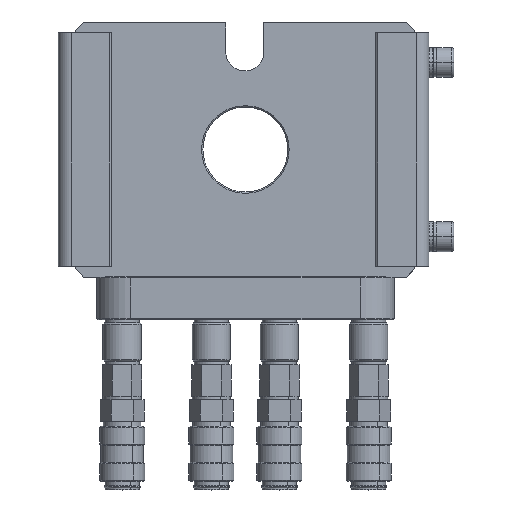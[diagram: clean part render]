
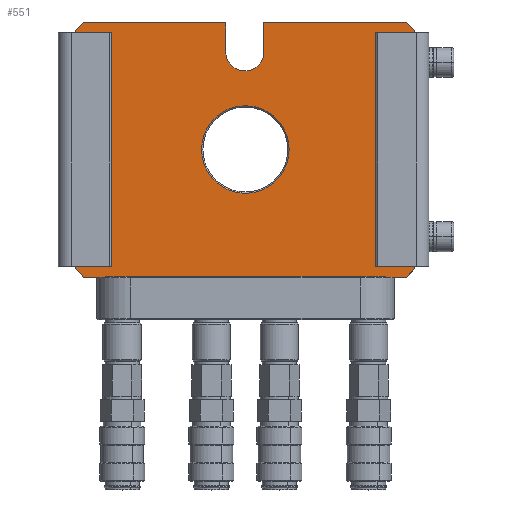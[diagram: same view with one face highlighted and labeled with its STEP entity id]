
A CAD part, top view. The second image highlights one B-rep face of the part: STEP entity #551.
In plain terms, the highlighted planar face has unit normal (0, 0, 1).
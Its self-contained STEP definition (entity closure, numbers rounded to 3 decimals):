
#551 = ADVANCED_FACE ( 'NONE', ( #47416, #33720 ), #48893, .F. ) ;
#2546 = VECTOR ( 'NONE', #88256, 1000. ) ;
#5562 = CARTESIAN_POINT ( 'NONE',  ( 4.5, 29.8, -58. ) ) ;
#6164 = EDGE_CURVE ( 'NONE', #15114, #55414, #90745, .T. ) ;
#6766 = ORIENTED_EDGE ( 'NONE', *, *, #46409, .F. ) ;
#7442 = DIRECTION ( 'NONE',  ( -1., 0., 0. ) ) ;
#9078 = EDGE_CURVE ( 'NONE', #28310, #47513, #83032, .T. ) ;
#9853 = EDGE_LOOP ( 'NONE', ( #54880, #81036, #22105, #88994, #31207, #30141, #10059, #29065, #6766, #51910, #52121, #95723, #37451, #90715 ) ) ;
#10059 = ORIENTED_EDGE ( 'NONE', *, *, #43722, .F. ) ;
#10756 = VECTOR ( 'NONE', #60471, 1000. ) ;
#10831 = VERTEX_POINT ( 'NONE', #66540 ) ;
#10999 = CARTESIAN_POINT ( 'NONE',  ( 38.125, 30., -58. ) ) ;
#12163 = CIRCLE ( 'NONE', #68503, 4.5 ) ;
#12860 = CIRCLE ( 'NONE', #17657, 10.3 ) ;
#13955 = DIRECTION ( 'NONE',  ( -0.707, 0.707, 0. ) ) ;
#14263 = CARTESIAN_POINT ( 'NONE',  ( -9.875, 30., -58. ) ) ;
#15114 = VERTEX_POINT ( 'NONE', #77993 ) ;
#15138 = VERTEX_POINT ( 'NONE', #24591 ) ;
#17657 = AXIS2_PLACEMENT_3D ( 'NONE', #29764, #84599, #7442 ) ;
#17868 = DIRECTION ( 'NONE',  ( -1., 0., 0. ) ) ;
#18886 = DIRECTION ( 'NONE',  ( 0., 1., 0. ) ) ;
#19203 = LINE ( 'NONE', #50127, #41755 ) ;
#19893 = CARTESIAN_POINT ( 'NONE',  ( -39.875, -28., -58. ) ) ;
#22105 = ORIENTED_EDGE ( 'NONE', *, *, #37866, .F. ) ;
#22113 = EDGE_CURVE ( 'NONE', #26180, #15138, #34384, .T. ) ;
#22424 = EDGE_CURVE ( 'NONE', #93576, #35742, #12163, .T. ) ;
#24437 = VECTOR ( 'NONE', #18886, 1000. ) ;
#24537 = CARTESIAN_POINT ( 'NONE',  ( 10.425, 0., -58. ) ) ;
#24591 = CARTESIAN_POINT ( 'NONE',  ( 38.125, -30., -58. ) ) ;
#25290 = CARTESIAN_POINT ( 'NONE',  ( 40.025, 28.1, -58. ) ) ;
#26180 = VERTEX_POINT ( 'NONE', #36825 ) ;
#26802 = CARTESIAN_POINT ( 'NONE',  ( 38.125, -30., -58. ) ) ;
#28310 = VERTEX_POINT ( 'NONE', #85025 ) ;
#29065 = ORIENTED_EDGE ( 'NONE', *, *, #96781, .F. ) ;
#29121 = VECTOR ( 'NONE', #33563, 1000. ) ;
#29764 = CARTESIAN_POINT ( 'NONE',  ( 0.125, 0., -58. ) ) ;
#30141 = ORIENTED_EDGE ( 'NONE', *, *, #6164, .T. ) ;
#30290 = CARTESIAN_POINT ( 'NONE',  ( 40.125, -30., -58. ) ) ;
#30527 = LINE ( 'NONE', #14263, #86565 ) ;
#31207 = ORIENTED_EDGE ( 'NONE', *, *, #77013, .F. ) ;
#31988 = DIRECTION ( 'NONE',  ( -0.707, -0.707, 0. ) ) ;
#32261 = DIRECTION ( 'NONE',  ( 0., 0., -1. ) ) ;
#32887 = VECTOR ( 'NONE', #82285, 1000. ) ;
#33563 = DIRECTION ( 'NONE',  ( 0., -1., 0. ) ) ;
#33720 = FACE_OUTER_BOUND ( 'NONE', #9853, .T. ) ;
#34310 = CARTESIAN_POINT ( 'NONE',  ( 40.125, 30., -58. ) ) ;
#34384 = LINE ( 'NONE', #26802, #2546 ) ;
#35262 = AXIS2_PLACEMENT_3D ( 'NONE', #41614, #87888, #43583 ) ;
#35742 = VERTEX_POINT ( 'NONE', #49691 ) ;
#36042 = LINE ( 'NONE', #97024, #43170 ) ;
#36825 = CARTESIAN_POINT ( 'NONE',  ( 40.025, -28.1, -58. ) ) ;
#37451 = ORIENTED_EDGE ( 'NONE', *, *, #69112, .F. ) ;
#37615 = DIRECTION ( 'NONE',  ( 1., 0., 0. ) ) ;
#37866 = EDGE_CURVE ( 'NONE', #35742, #52450, #64257, .T. ) ;
#38410 = VECTOR ( 'NONE', #96287, 1000. ) ;
#38534 = CARTESIAN_POINT ( 'NONE',  ( 4.7, 30., -58. ) ) ;
#40246 = LINE ( 'NONE', #80423, #24437 ) ;
#40364 = ORIENTED_EDGE ( 'NONE', *, *, #43919, .T. ) ;
#41001 = ORIENTED_EDGE ( 'NONE', *, *, #50756, .T. ) ;
#41614 = CARTESIAN_POINT ( 'NONE',  ( 0.125, 0., -58. ) ) ;
#41755 = VECTOR ( 'NONE', #80768, 1000. ) ;
#42383 = VERTEX_POINT ( 'NONE', #96716 ) ;
#43170 = VECTOR ( 'NONE', #67639, 1000. ) ;
#43583 = DIRECTION ( 'NONE',  ( -1., 0., 0. ) ) ;
#43722 = EDGE_CURVE ( 'NONE', #42383, #55414, #30527, .T. ) ;
#43919 = EDGE_CURVE ( 'NONE', #61340, #10831, #78623, .T. ) ;
#43956 = CARTESIAN_POINT ( 'NONE',  ( -4.7, 30., -58. ) ) ;
#45640 = VECTOR ( 'NONE', #71776, 1000. ) ;
#45990 = VERTEX_POINT ( 'NONE', #25290 ) ;
#46409 = EDGE_CURVE ( 'NONE', #47513, #67944, #40246, .T. ) ;
#47137 = CARTESIAN_POINT ( 'NONE',  ( -4.7, 30., -58. ) ) ;
#47416 = FACE_BOUND ( 'NONE', #91133, .T. ) ;
#47513 = VERTEX_POINT ( 'NONE', #19893 ) ;
#47981 = LINE ( 'NONE', #34310, #38410 ) ;
#48893 = PLANE ( 'NONE',  #89840 ) ;
#49497 = EDGE_CURVE ( 'NONE', #87653, #45990, #36042, .T. ) ;
#49691 = CARTESIAN_POINT ( 'NONE',  ( 4.5, 23., -58. ) ) ;
#50127 = CARTESIAN_POINT ( 'NONE',  ( -39.875, 28., -58. ) ) ;
#50756 = EDGE_CURVE ( 'NONE', #10831, #61340, #12860, .T. ) ;
#51636 = CARTESIAN_POINT ( 'NONE',  ( 40.025, 25., -58. ) ) ;
#51910 = ORIENTED_EDGE ( 'NONE', *, *, #9078, .F. ) ;
#52121 = ORIENTED_EDGE ( 'NONE', *, *, #81198, .F. ) ;
#52450 = VERTEX_POINT ( 'NONE', #5562 ) ;
#53650 = LINE ( 'NONE', #38534, #99119 ) ;
#54790 = CARTESIAN_POINT ( 'NONE',  ( -39.875, 28., -58. ) ) ;
#54880 = ORIENTED_EDGE ( 'NONE', *, *, #65567, .F. ) ;
#55414 = VERTEX_POINT ( 'NONE', #47137 ) ;
#58022 = CARTESIAN_POINT ( 'NONE',  ( 4.7, 30., -58. ) ) ;
#60471 = DIRECTION ( 'NONE',  ( -1., 0., 0. ) ) ;
#61340 = VERTEX_POINT ( 'NONE', #24537 ) ;
#64257 = LINE ( 'NONE', #96135, #45640 ) ;
#64339 = CARTESIAN_POINT ( 'NONE',  ( 40.125, -25., -58. ) ) ;
#65567 = EDGE_CURVE ( 'NONE', #81123, #87653, #47981, .T. ) ;
#66056 = VECTOR ( 'NONE', #67462, 1000. ) ;
#66540 = CARTESIAN_POINT ( 'NONE',  ( -10.175, 0., -58. ) ) ;
#67462 = DIRECTION ( 'NONE',  ( -0.707, 0.707, 0. ) ) ;
#67639 = DIRECTION ( 'NONE',  ( 0.707, -0.707, 0. ) ) ;
#67944 = VERTEX_POINT ( 'NONE', #54790 ) ;
#68503 = AXIS2_PLACEMENT_3D ( 'NONE', #70787, #87509, #17868 ) ;
#69112 = EDGE_CURVE ( 'NONE', #45990, #26180, #89892, .T. ) ;
#70787 = CARTESIAN_POINT ( 'NONE',  ( 0., 23., -58. ) ) ;
#71378 = DIRECTION ( 'NONE',  ( -1., 0., 0. ) ) ;
#71776 = DIRECTION ( 'NONE',  ( 0., 1., 0. ) ) ;
#77013 = EDGE_CURVE ( 'NONE', #15114, #93576, #79345, .T. ) ;
#77993 = CARTESIAN_POINT ( 'NONE',  ( -4.5, 29.8, -58. ) ) ;
#78623 = CIRCLE ( 'NONE', #35262, 10.3 ) ;
#79345 = LINE ( 'NONE', #87935, #29121 ) ;
#79827 = EDGE_CURVE ( 'NONE', #81123, #52450, #53650, .T. ) ;
#80423 = CARTESIAN_POINT ( 'NONE',  ( -39.875, -25., -58. ) ) ;
#80768 = DIRECTION ( 'NONE',  ( 0.707, 0.707, 0. ) ) ;
#81036 = ORIENTED_EDGE ( 'NONE', *, *, #79827, .T. ) ;
#81123 = VERTEX_POINT ( 'NONE', #58022 ) ;
#81198 = EDGE_CURVE ( 'NONE', #15138, #28310, #99347, .T. ) ;
#82285 = DIRECTION ( 'NONE',  ( 0., -1., 0. ) ) ;
#82571 = CARTESIAN_POINT ( 'NONE',  ( -39.875, -28., -58. ) ) ;
#83032 = LINE ( 'NONE', #82571, #90430 ) ;
#84599 = DIRECTION ( 'NONE',  ( 0., 0., -1. ) ) ;
#85025 = CARTESIAN_POINT ( 'NONE',  ( -37.875, -30., -58. ) ) ;
#86565 = VECTOR ( 'NONE', #37615, 1000. ) ;
#87509 = DIRECTION ( 'NONE',  ( 0., 0., 1. ) ) ;
#87653 = VERTEX_POINT ( 'NONE', #10999 ) ;
#87888 = DIRECTION ( 'NONE',  ( 0., 0., -1. ) ) ;
#87935 = CARTESIAN_POINT ( 'NONE',  ( -4.5, -25., -58. ) ) ;
#88256 = DIRECTION ( 'NONE',  ( -0.707, -0.707, 0. ) ) ;
#88994 = ORIENTED_EDGE ( 'NONE', *, *, #22424, .F. ) ;
#89840 = AXIS2_PLACEMENT_3D ( 'NONE', #64339, #32261, #71378 ) ;
#89892 = LINE ( 'NONE', #51636, #32887 ) ;
#90430 = VECTOR ( 'NONE', #13955, 1000. ) ;
#90715 = ORIENTED_EDGE ( 'NONE', *, *, #49497, .F. ) ;
#90745 = LINE ( 'NONE', #43956, #66056 ) ;
#91133 = EDGE_LOOP ( 'NONE', ( #40364, #41001 ) ) ;
#91187 = CARTESIAN_POINT ( 'NONE',  ( -4.5, 23., -58. ) ) ;
#93576 = VERTEX_POINT ( 'NONE', #91187 ) ;
#95723 = ORIENTED_EDGE ( 'NONE', *, *, #22113, .F. ) ;
#96135 = CARTESIAN_POINT ( 'NONE',  ( 4.5, -25., -58. ) ) ;
#96287 = DIRECTION ( 'NONE',  ( 1., 0., 0. ) ) ;
#96716 = CARTESIAN_POINT ( 'NONE',  ( -37.875, 30., -58. ) ) ;
#96781 = EDGE_CURVE ( 'NONE', #67944, #42383, #19203, .T. ) ;
#97024 = CARTESIAN_POINT ( 'NONE',  ( 40.125, 28., -58. ) ) ;
#99119 = VECTOR ( 'NONE', #31988, 1000. ) ;
#99347 = LINE ( 'NONE', #30290, #10756 ) ;
